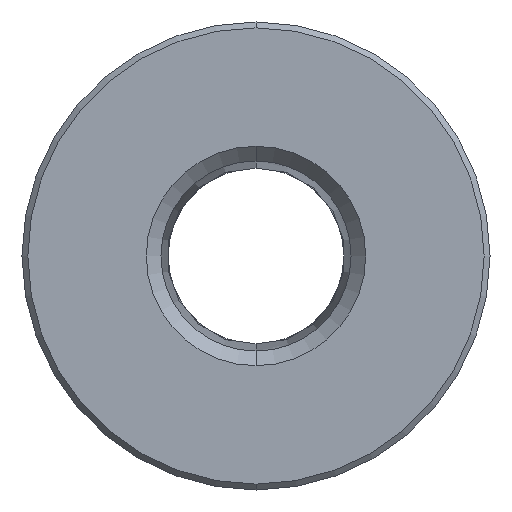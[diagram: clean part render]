
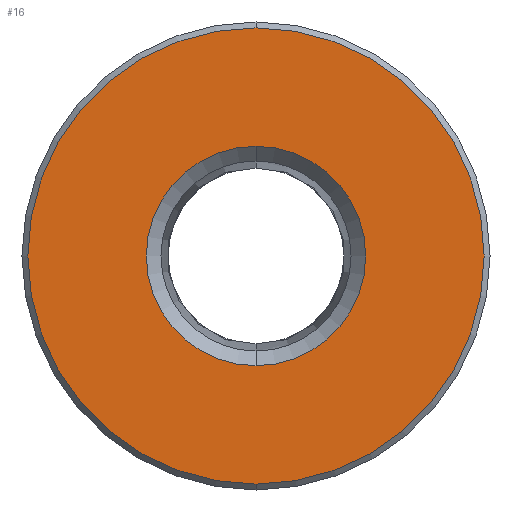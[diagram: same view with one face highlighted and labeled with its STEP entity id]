
A CAD part, front view. The second image highlights one B-rep face of the part: STEP entity #16.
In plain terms, the highlighted planar face has unit normal (0, -1, 0).
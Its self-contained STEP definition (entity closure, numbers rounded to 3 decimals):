
#13 = CARTESIAN_POINT ( 'NONE',  ( 0., 0., -3.75 ) ) ;
#16 = ADVANCED_FACE ( 'NONE', ( #384, #285 ), #289, .T. ) ;
#52 = CIRCLE ( 'NONE', #615, 3.75 ) ;
#53 = CIRCLE ( 'NONE', #173, 7.8 ) ;
#109 = ORIENTED_EDGE ( 'NONE', *, *, #186, .T. ) ;
#131 = ORIENTED_EDGE ( 'NONE', *, *, #564, .T. ) ;
#135 = ORIENTED_EDGE ( 'NONE', *, *, #158, .T. ) ;
#150 = CARTESIAN_POINT ( 'NONE',  ( 0., 0., 0. ) ) ;
#158 = EDGE_CURVE ( 'NONE', #460, #478, #424, .T. ) ;
#161 = EDGE_LOOP ( 'NONE', ( #131, #458 ) ) ;
#166 = CARTESIAN_POINT ( 'NONE',  ( 0., 0., 3.75 ) ) ;
#173 = AXIS2_PLACEMENT_3D ( 'NONE', #566, #464, #539 ) ;
#175 = VERTEX_POINT ( 'NONE', #450 ) ;
#186 = EDGE_CURVE ( 'NONE', #478, #460, #52, .T. ) ;
#193 = CARTESIAN_POINT ( 'NONE',  ( -8., 0., 0. ) ) ;
#213 = VERTEX_POINT ( 'NONE', #624 ) ;
#222 = CARTESIAN_POINT ( 'NONE',  ( 0., 0., 0. ) ) ;
#234 = DIRECTION ( 'NONE',  ( 0., -1., 0. ) ) ;
#241 = DIRECTION ( 'NONE',  ( 0., 1., 0. ) ) ;
#285 = FACE_OUTER_BOUND ( 'NONE', #161, .T. ) ;
#289 = PLANE ( 'NONE',  #488 ) ;
#327 = AXIS2_PLACEMENT_3D ( 'NONE', #501, #405, #540 ) ;
#329 = AXIS2_PLACEMENT_3D ( 'NONE', #222, #513, #372 ) ;
#330 = EDGE_LOOP ( 'NONE', ( #135, #109 ) ) ;
#351 = DIRECTION ( 'NONE',  ( 0., 0., -1. ) ) ;
#372 = DIRECTION ( 'NONE',  ( 0., 0., -1. ) ) ;
#384 = FACE_BOUND ( 'NONE', #330, .T. ) ;
#405 = DIRECTION ( 'NONE',  ( 0., 1., 0. ) ) ;
#424 = CIRCLE ( 'NONE', #327, 3.75 ) ;
#450 = CARTESIAN_POINT ( 'NONE',  ( 0., 0., -7.8 ) ) ;
#458 = ORIENTED_EDGE ( 'NONE', *, *, #550, .T. ) ;
#460 = VERTEX_POINT ( 'NONE', #13 ) ;
#464 = DIRECTION ( 'NONE',  ( 0., -1., 0. ) ) ;
#478 = VERTEX_POINT ( 'NONE', #166 ) ;
#488 = AXIS2_PLACEMENT_3D ( 'NONE', #193, #234, #584 ) ;
#501 = CARTESIAN_POINT ( 'NONE',  ( 0., 0., 0. ) ) ;
#513 = DIRECTION ( 'NONE',  ( 0., -1., 0. ) ) ;
#539 = DIRECTION ( 'NONE',  ( 0., 0., -1. ) ) ;
#540 = DIRECTION ( 'NONE',  ( 0., 0., -1. ) ) ;
#550 = EDGE_CURVE ( 'NONE', #175, #213, #578, .T. ) ;
#564 = EDGE_CURVE ( 'NONE', #213, #175, #53, .T. ) ;
#566 = CARTESIAN_POINT ( 'NONE',  ( 0., 0., 0. ) ) ;
#578 = CIRCLE ( 'NONE', #329, 7.8 ) ;
#584 = DIRECTION ( 'NONE',  ( 0., 0., -1. ) ) ;
#615 = AXIS2_PLACEMENT_3D ( 'NONE', #150, #241, #351 ) ;
#624 = CARTESIAN_POINT ( 'NONE',  ( 0., 0., 7.8 ) ) ;
